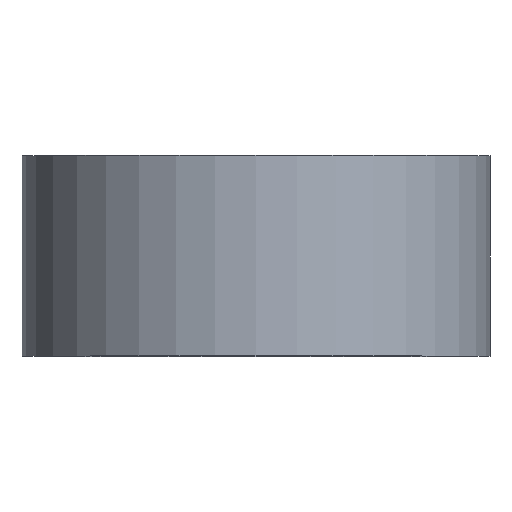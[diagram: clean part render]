
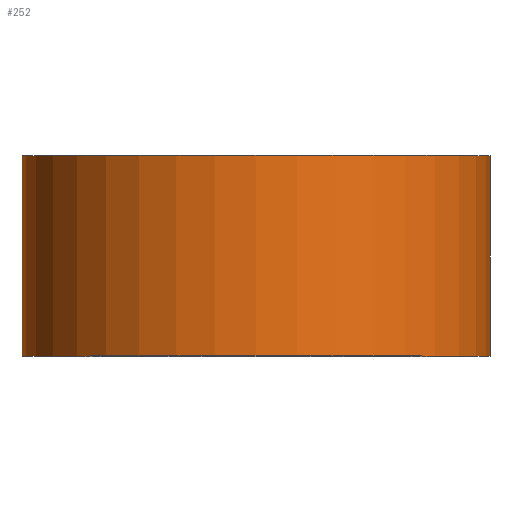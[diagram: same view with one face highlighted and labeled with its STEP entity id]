
A CAD part, top view. The second image highlights one B-rep face of the part: STEP entity #252.
In plain terms, the highlighted cylindrical face has radius 35 mm (diameter 70 mm), a partial arc.
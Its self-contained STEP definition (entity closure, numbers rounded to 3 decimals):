
#7 = DIRECTION ( 'NONE',  ( -1., 0., 0. ) ) ;
#17 = CARTESIAN_POINT ( 'NONE',  ( 0., 0., 0. ) ) ;
#29 = DIRECTION ( 'NONE',  ( 0., 1., 0. ) ) ;
#32 = CYLINDRICAL_SURFACE ( 'NONE', #210, 35. ) ;
#34 = VERTEX_POINT ( 'NONE', #125 ) ;
#43 = EDGE_CURVE ( 'NONE', #34, #239, #126, .T. ) ;
#52 = AXIS2_PLACEMENT_3D ( 'NONE', #155, #93, #297 ) ;
#58 = CARTESIAN_POINT ( 'NONE',  ( 35., 0., 0. ) ) ;
#61 = ORIENTED_EDGE ( 'NONE', *, *, #68, .T. ) ;
#68 = EDGE_CURVE ( 'NONE', #76, #239, #120, .T. ) ;
#69 = CARTESIAN_POINT ( 'NONE',  ( 35., 30., 0. ) ) ;
#76 = VERTEX_POINT ( 'NONE', #190 ) ;
#78 = AXIS2_PLACEMENT_3D ( 'NONE', #287, #150, #7 ) ;
#93 = DIRECTION ( 'NONE',  ( 0., 1., 0. ) ) ;
#96 = CIRCLE ( 'NONE', #52, 35. ) ;
#114 = ORIENTED_EDGE ( 'NONE', *, *, #121, .F. ) ;
#116 = DIRECTION ( 'NONE',  ( -1., 0., 0. ) ) ;
#120 = LINE ( 'NONE', #58, #242 ) ;
#121 = EDGE_CURVE ( 'NONE', #174, #34, #142, .T. ) ;
#125 = CARTESIAN_POINT ( 'NONE',  ( -35., 30., 0. ) ) ;
#126 = CIRCLE ( 'NONE', #78, 35. ) ;
#142 = LINE ( 'NONE', #285, #258 ) ;
#150 = DIRECTION ( 'NONE',  ( 0., 1., 0. ) ) ;
#151 = CARTESIAN_POINT ( 'NONE',  ( -35., 0., 0. ) ) ;
#155 = CARTESIAN_POINT ( 'NONE',  ( 0., 0., 0. ) ) ;
#174 = VERTEX_POINT ( 'NONE', #151 ) ;
#179 = FACE_OUTER_BOUND ( 'NONE', #207, .T. ) ;
#190 = CARTESIAN_POINT ( 'NONE',  ( 35., 0., 0. ) ) ;
#196 = EDGE_CURVE ( 'NONE', #174, #76, #96, .T. ) ;
#207 = EDGE_LOOP ( 'NONE', ( #248, #61, #295, #114 ) ) ;
#210 = AXIS2_PLACEMENT_3D ( 'NONE', #17, #222, #116 ) ;
#215 = DIRECTION ( 'NONE',  ( 0., 1., 0. ) ) ;
#222 = DIRECTION ( 'NONE',  ( 0., 1., 0. ) ) ;
#239 = VERTEX_POINT ( 'NONE', #69 ) ;
#242 = VECTOR ( 'NONE', #29, 1000. ) ;
#248 = ORIENTED_EDGE ( 'NONE', *, *, #196, .T. ) ;
#252 = ADVANCED_FACE ( 'NONE', ( #179 ), #32, .T. ) ;
#258 = VECTOR ( 'NONE', #215, 1000. ) ;
#285 = CARTESIAN_POINT ( 'NONE',  ( -35., 0., 0. ) ) ;
#287 = CARTESIAN_POINT ( 'NONE',  ( 0., 30., 0. ) ) ;
#295 = ORIENTED_EDGE ( 'NONE', *, *, #43, .F. ) ;
#297 = DIRECTION ( 'NONE',  ( -1., 0., 0. ) ) ;
